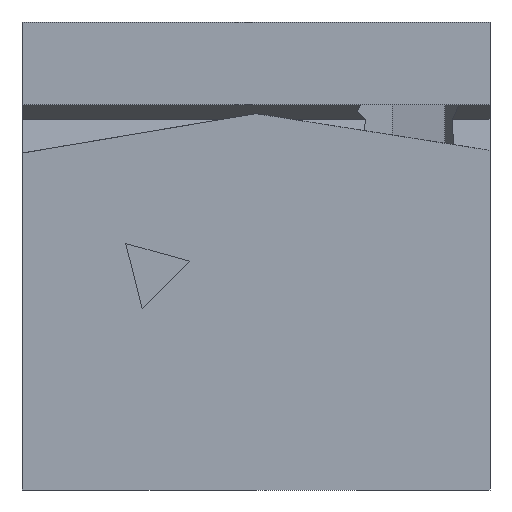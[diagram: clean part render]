
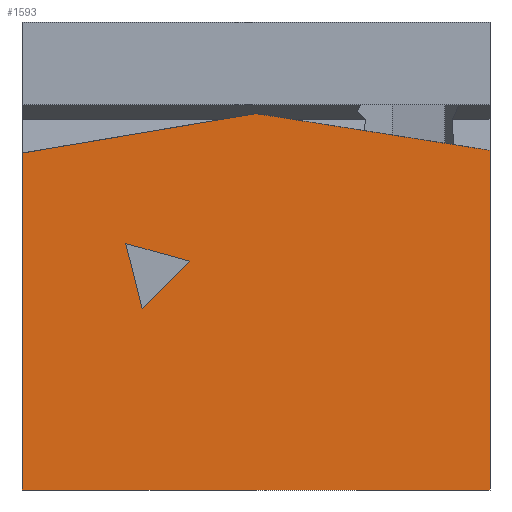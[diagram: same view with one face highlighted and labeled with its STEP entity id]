
A CAD part, left-side view. The second image highlights one B-rep face of the part: STEP entity #1593.
In plain terms, the highlighted planar face has unit normal (-1, 0, 0).
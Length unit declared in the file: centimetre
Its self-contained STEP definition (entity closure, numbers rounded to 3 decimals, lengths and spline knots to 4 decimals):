
#35 = VERTEX_POINT ( 'NONE', #556 ) ;
#56 = CARTESIAN_POINT ( 'NONE',  ( 0., 1000., 0. ) ) ;
#67 = DIRECTION ( 'NONE',  ( 0., 0., -1. ) ) ;
#81 = VECTOR ( 'NONE', #939, 100. ) ;
#125 = CARTESIAN_POINT ( 'NONE',  ( 0., 0., 725.6632 ) ) ;
#166 = LINE ( 'NONE', #1191, #1501 ) ;
#225 = EDGE_CURVE ( 'NONE', #1595, #1168, #358, .T. ) ;
#236 = VERTEX_POINT ( 'NONE', #585 ) ;
#300 = ORIENTED_EDGE ( 'NONE', *, *, #1539, .F. ) ;
#321 = CARTESIAN_POINT ( 'NONE',  ( 0., 1000., 1000. ) ) ;
#358 = LINE ( 'NONE', #1617, #1406 ) ;
#367 = VERTEX_POINT ( 'NONE', #551 ) ;
#401 = VERTEX_POINT ( 'NONE', #1603 ) ;
#419 = EDGE_CURVE ( 'NONE', #1168, #367, #876, .T. ) ;
#425 = CARTESIAN_POINT ( 'NONE',  ( 0., 1000., 719.9667 ) ) ;
#446 = CARTESIAN_POINT ( 'NONE',  ( 0., 500., 804.1023 ) ) ;
#466 = DIRECTION ( 'NONE',  ( 0., -0.988, -0.155 ) ) ;
#470 = CARTESIAN_POINT ( 'NONE',  ( 0., 743.4109, 387.6915 ) ) ;
#497 = EDGE_CURVE ( 'NONE', #1171, #401, #1514, .T. ) ;
#543 = VERTEX_POINT ( 'NONE', #1012 ) ;
#551 = CARTESIAN_POINT ( 'NONE',  ( 0., 0., 0. ) ) ;
#556 = CARTESIAN_POINT ( 'NONE',  ( 0., 1000., 719.9667 ) ) ;
#581 = ORIENTED_EDGE ( 'NONE', *, *, #497, .F. ) ;
#585 = CARTESIAN_POINT ( 'NONE',  ( 0., 778.3654, 526.7146 ) ) ;
#587 = ORIENTED_EDGE ( 'NONE', *, *, #611, .T. ) ;
#605 = DIRECTION ( 'NONE',  ( 0., -0.707, 0.707 ) ) ;
#611 = EDGE_CURVE ( 'NONE', #35, #543, #1283, .T. ) ;
#612 = VECTOR ( 'NONE', #1495, 100. ) ;
#652 = DIRECTION ( 'NONE',  ( 0., -0.244, -0.97 ) ) ;
#727 = ORIENTED_EDGE ( 'NONE', *, *, #225, .F. ) ;
#742 = VECTOR ( 'NONE', #1340, 100. ) ;
#769 = EDGE_CURVE ( 'NONE', #543, #367, #1202, .T. ) ;
#783 = EDGE_LOOP ( 'NONE', ( #581, #300, #1030 ) ) ;
#837 = ORIENTED_EDGE ( 'NONE', *, *, #863, .F. ) ;
#855 = DIRECTION ( 'NONE',  ( 1., 0., 0. ) ) ;
#863 = EDGE_CURVE ( 'NONE', #35, #1595, #1296, .T. ) ;
#876 = LINE ( 'NONE', #1151, #612 ) ;
#930 = CARTESIAN_POINT ( 'NONE',  ( 0., 1000., 1000. ) ) ;
#939 = DIRECTION ( 'NONE',  ( 0., -0.986, 0.166 ) ) ;
#959 = VECTOR ( 'NONE', #605, 100. ) ;
#963 = FACE_OUTER_BOUND ( 'NONE', #1512, .T. ) ;
#1012 = CARTESIAN_POINT ( 'NONE',  ( 0., 1000., 0. ) ) ;
#1030 = ORIENTED_EDGE ( 'NONE', *, *, #1145, .F. ) ;
#1083 = LINE ( 'NONE', #1300, #1259 ) ;
#1124 = ORIENTED_EDGE ( 'NONE', *, *, #419, .F. ) ;
#1131 = VECTOR ( 'NONE', #1538, 100. ) ;
#1145 = EDGE_CURVE ( 'NONE', #401, #236, #1083, .T. ) ;
#1151 = CARTESIAN_POINT ( 'NONE',  ( 0., 0., 1000. ) ) ;
#1168 = VERTEX_POINT ( 'NONE', #125 ) ;
#1171 = VERTEX_POINT ( 'NONE', #1393 ) ;
#1191 = CARTESIAN_POINT ( 'NONE',  ( 0., 778.3654, 526.7146 ) ) ;
#1202 = LINE ( 'NONE', #56, #742 ) ;
#1259 = VECTOR ( 'NONE', #1586, 100. ) ;
#1283 = LINE ( 'NONE', #930, #1131 ) ;
#1296 = LINE ( 'NONE', #425, #81 ) ;
#1300 = CARTESIAN_POINT ( 'NONE',  ( 0., 642.0593, 489.0432 ) ) ;
#1340 = DIRECTION ( 'NONE',  ( 0., -1., 0. ) ) ;
#1343 = ORIENTED_EDGE ( 'NONE', *, *, #769, .T. ) ;
#1393 = CARTESIAN_POINT ( 'NONE',  ( 0., 743.4109, 387.6915 ) ) ;
#1406 = VECTOR ( 'NONE', #466, 100. ) ;
#1461 = PLANE ( 'NONE',  #1637 ) ;
#1495 = DIRECTION ( 'NONE',  ( 0., 0., -1. ) ) ;
#1500 = FACE_BOUND ( 'NONE', #783, .T. ) ;
#1501 = VECTOR ( 'NONE', #652, 100. ) ;
#1512 = EDGE_LOOP ( 'NONE', ( #1124, #727, #837, #587, #1343 ) ) ;
#1514 = LINE ( 'NONE', #470, #959 ) ;
#1538 = DIRECTION ( 'NONE',  ( 0., 0., -1. ) ) ;
#1539 = EDGE_CURVE ( 'NONE', #236, #1171, #166, .T. ) ;
#1586 = DIRECTION ( 'NONE',  ( 0., 0.964, 0.266 ) ) ;
#1593 = ADVANCED_FACE ( 'NONE', ( #1500, #963 ), #1461, .F. ) ;
#1595 = VERTEX_POINT ( 'NONE', #446 ) ;
#1603 = CARTESIAN_POINT ( 'NONE',  ( 0., 642.0593, 489.0432 ) ) ;
#1617 = CARTESIAN_POINT ( 'NONE',  ( 0., 500., 804.1023 ) ) ;
#1637 = AXIS2_PLACEMENT_3D ( 'NONE', #321, #855, #67 ) ;
